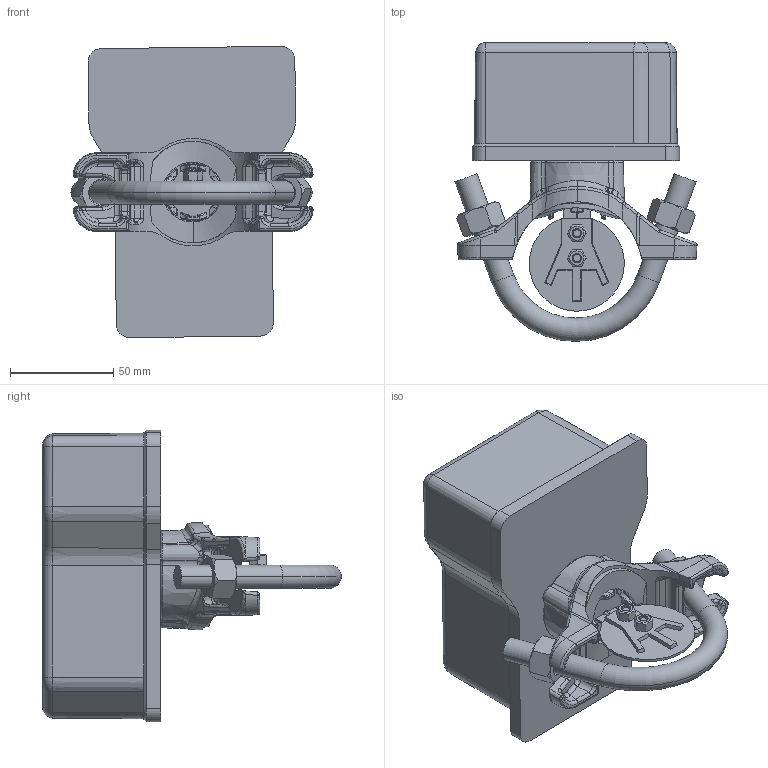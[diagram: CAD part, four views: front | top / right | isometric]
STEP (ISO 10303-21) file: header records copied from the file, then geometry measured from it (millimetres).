
FILE_DESCRIPTION (( 'STEP AP214' ), '1' );
FILE_NAME ('ZSJZYS 50.STEP', '2024-03-30T10:18:13', ( '' ), ( '' ), 'SwSTEP 2.0', 'SolidWorks 2018', '' );
FILE_SCHEMA (( 'AUTOMOTIVE_DESIGN' ));
Length unit declared in the file: millimetre
Products named in the file (1): ZSJZYS 50
Bounding box: 117.1 x 144.47 x 140.95 mm (x, y, z)
Volume: 715150.3 mm3; surface area: 77494.9 mm2
Topology: 8 solids, 11 shells, 933 faces, 2214 edges, 1300 vertices
Faces by surface type: bspline 378, plane 214, cylinder 188, cone 103, torus 32, sphere 18
Entity records: 67522 total; most frequent: CARTESIAN_POINT 38464, ORIENTED_EDGE 4412, DIRECTION 3026, EDGE_CURVE 2206, VERTEX_POINT 1300, AXIS2_PLACEMENT_3D 1194, EDGE_LOOP 960, UNCERTAINTY_MEASURE_WITH_UNIT 941
